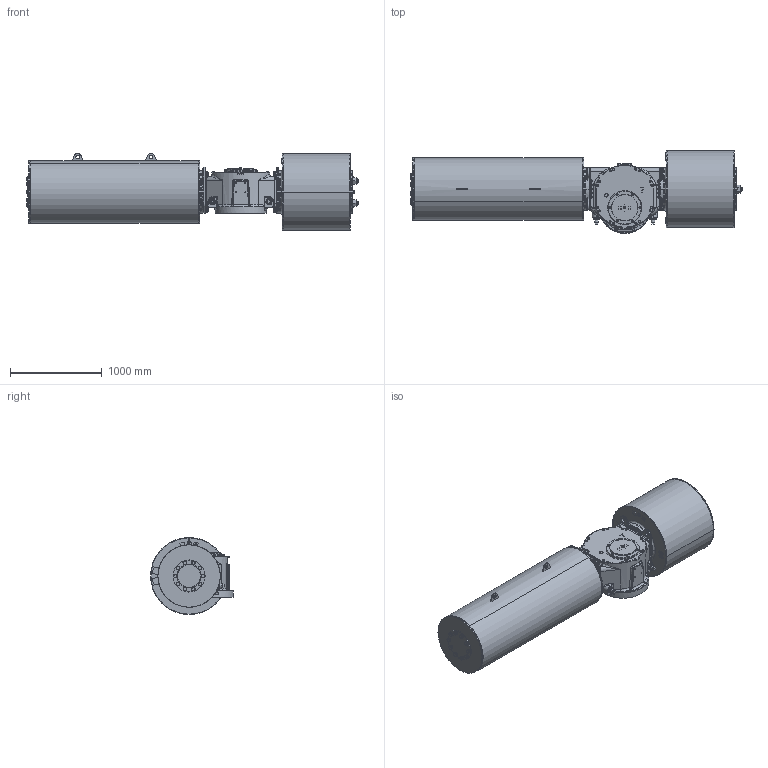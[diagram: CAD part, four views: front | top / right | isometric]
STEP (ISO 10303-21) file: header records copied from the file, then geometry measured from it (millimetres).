
FILE_DESCRIPTION (( 'STEP AP203' ), '1' );
FILE_NAME ('VTS7-800-SR-FO.STEP', '2023-01-01T10:08:16', ( '' ), ( '' ), 'SwSTEP 2.0', 'SolidWorks 2020', '' );
FILE_SCHEMA (( 'CONFIG_CONTROL_DESIGN' ));
Length unit declared in the file: millimetre
Products named in the file (1): VTS7-800-SR-FO
Bounding box: 3619.22 x 902.5 x 839.5 mm (x, y, z)
Volume: 1278733597.1 mm3; surface area: 11475649.8 mm2
Topology: 54 solids, 62 shells, 3457 faces, 8367 edges, 5113 vertices
Faces by surface type: cylinder 1188, plane 1096, cone 796, bspline 362, torus 15
Entity records: 129360 total; most frequent: CARTESIAN_POINT 50738, DIRECTION 16573, ORIENTED_EDGE 16450, EDGE_CURVE 8225, AXIS2_PLACEMENT_3D 6706, VERTEX_POINT 5113, EDGE_LOOP 3814, CIRCLE 3610
